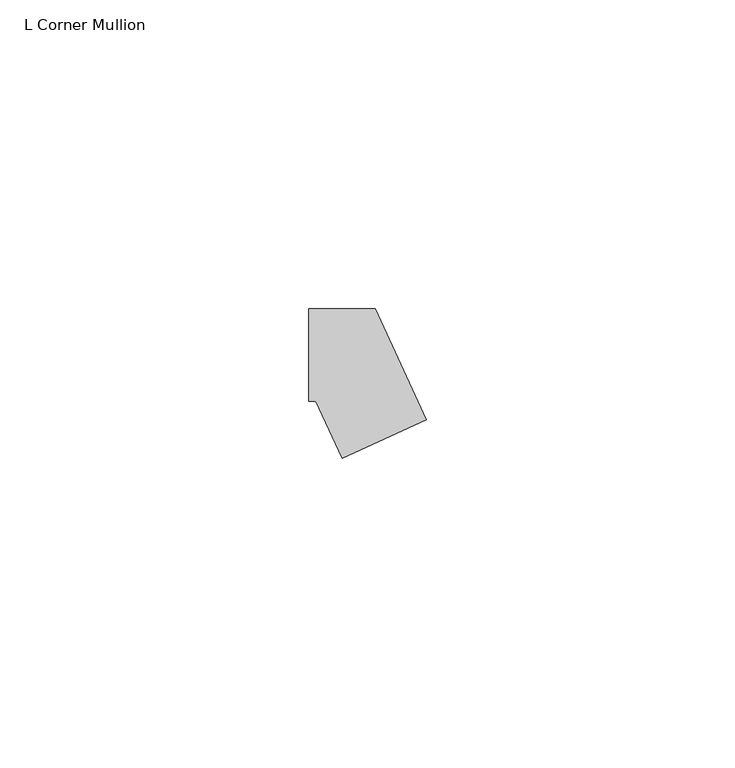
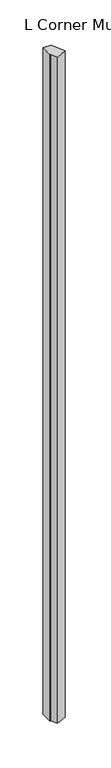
"""IFC4 building model written with IfcOpenShell, lengths in millimetres: member geometry, L Corner Mullion : ARQ_HERR_15X6mm."""

from ifc_helpers import new_model, si_unit, frame, origin, place, context, project, spatial, polyline, outline, extrude, source, transform, mapped, element, save


def l_corner_mullion_de296168(model_context):
    return source(origin(), model_context, "Body", "SweptSolid", [
        extrude(outline(polyline([(-0.5775282, -16.7605627), (-4.8156946, -7.5), (-6.0, -7.5), (-6.0, 7.5), (4.8156946, 7.5), (13.0619332, -10.5183601), (-0.5775282, -16.7605627)])), frame((0.0, 0.0, -940.95583), z_axis=(0.0, 0.0, 1.0), x_axis=(1.0, 0.0, 0.0)), (0.0, 0.0, 1.0), 940.95583),
    ])


if __name__ == "__main__":
    model = new_model("IFC4")
    model_context = context("Model", 3, world=origin())
    ifc_project = project(units=[si_unit("LENGTHUNIT", "METRE", prefix="MILLI")], contexts=[model_context])
    site = spatial("IfcSite", under=ifc_project)
    building = spatial("IfcBuilding", under=site)
    placement = place(None, origin())
    l_corner_mullion_shape = l_corner_mullion_de296168(model_context)
    element("IfcMember", 1, ObjectType="L Corner Mullion : ARQ_HERR_15X6mm", at=placement, inside=building, context=model_context, shape_type="MappedRepresentation", body=[
        mapped(l_corner_mullion_shape, transform((0.0, 0.0, 0.0), x_axis=(1.0, 0.0, 0.0), y_axis=(0.0, 1.0, 0.0), z_axis=(0.0, 0.0, 1.0))),
    ])
    save(model, "model.ifc")
